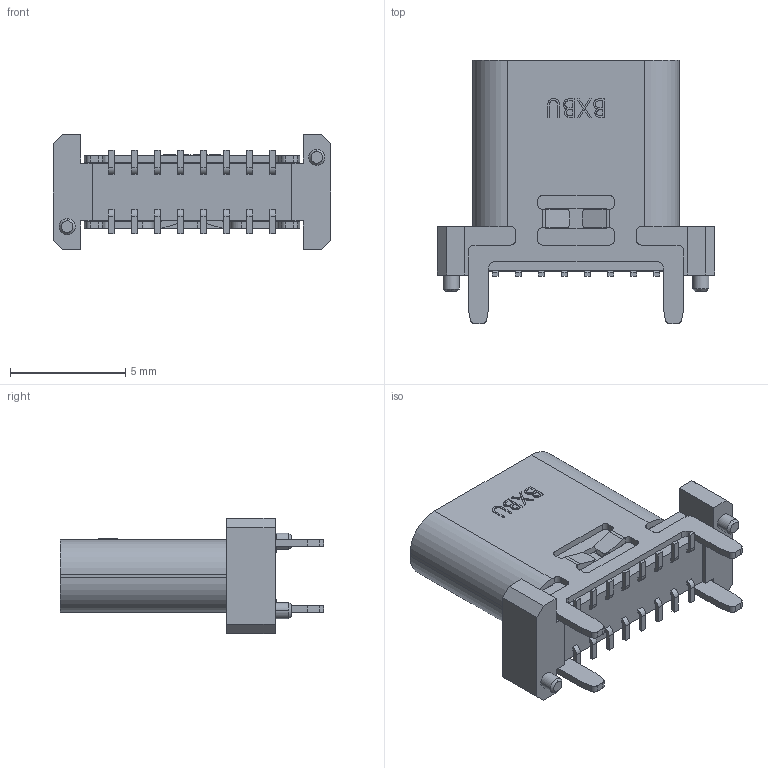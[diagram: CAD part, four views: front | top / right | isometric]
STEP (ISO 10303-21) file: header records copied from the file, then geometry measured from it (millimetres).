
FILE_DESCRIPTION (( 'STEP AP203' ), '1' );
FILE_NAME ('U5106-16PN9.3LB.step', '2026-10-15T01:22:27', ( '' ), ( '' ), 'SwSTEP 2.0', 'SolidWorks 2024', '' );
FILE_SCHEMA (( 'CONFIG_CONTROL_DESIGN' ));
Length unit declared in the file: millimetre
Products named in the file (4): 2; 1; U5106-16PN9.3LB; U5106-16PN9.3LB(2)
Assembly tree (3 placements, depth 3):
  U5106-16PN9.3LB
    U5106-16PN9.3LB(2)
      2
      1
Bounding box: 12 x 11.4 x 5 mm (x, y, z)
Volume: 186.4 mm3; surface area: 639 mm2
Topology: 2 solids, 2 shells, 539 faces, 1490 edges, 988 vertices
Faces by surface type: plane 364, cylinder 138, bspline 25, cone 12
Entity records: 18882 total; most frequent: CARTESIAN_POINT 4603, ORIENTED_EDGE 2980, DIRECTION 2764, EDGE_CURVE 1490, VECTOR 1130, LINE 1130, VERTEX_POINT 988, AXIS2_PLACEMENT_3D 817
